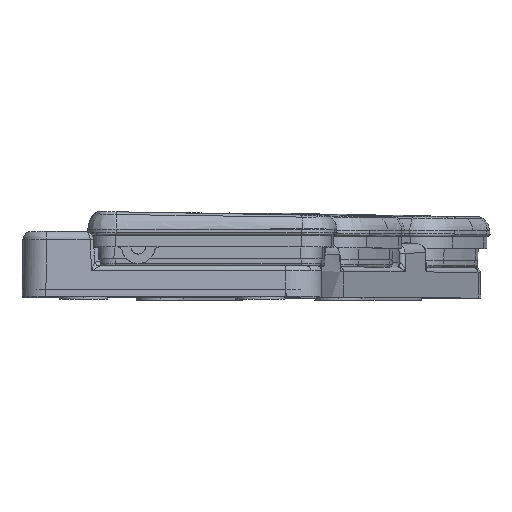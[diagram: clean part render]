
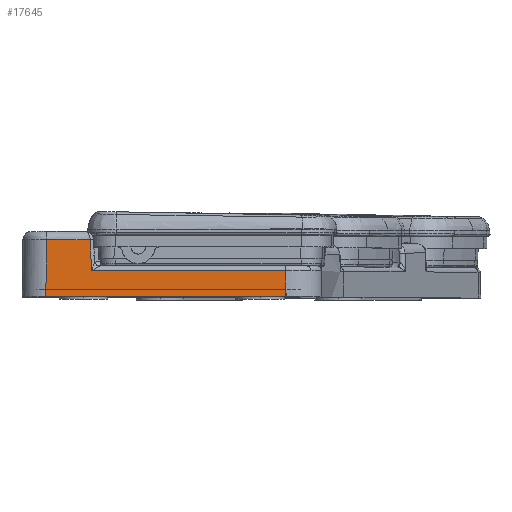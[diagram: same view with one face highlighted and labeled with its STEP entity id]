
A CAD part, top view. The second image highlights one B-rep face of the part: STEP entity #17645.
In plain terms, the highlighted planar face has unit normal (0, 0.018, 1).
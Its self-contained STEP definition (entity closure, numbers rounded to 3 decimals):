
#2441 = VERTEX_POINT ( 'NONE', #29691 ) ;
#3383 = EDGE_LOOP ( 'NONE', ( #48924, #40938, #6981, #41331, #4279, #52083 ) ) ;
#3707 = VERTEX_POINT ( 'NONE', #29127 ) ;
#4279 = ORIENTED_EDGE ( 'NONE', *, *, #30151, .T. ) ;
#4767 = CARTESIAN_POINT ( 'NONE',  ( -50.218, -9.965, 117.858 ) ) ;
#5860 = CARTESIAN_POINT ( 'NONE',  ( -79.429, -9.965, 117.858 ) ) ;
#6400 = CARTESIAN_POINT ( 'NONE',  ( -50.218, -9.965, 117.858 ) ) ;
#6561 = VERTEX_POINT ( 'NONE', #8832 ) ;
#6981 = ORIENTED_EDGE ( 'NONE', *, *, #13341, .F. ) ;
#8832 = CARTESIAN_POINT ( 'NONE',  ( 31.424, -9.965, 117.858 ) ) ;
#9708 = CARTESIAN_POINT ( 'NONE',  ( 31.614, -20.85, 118.048 ) ) ;
#10958 = B_SPLINE_CURVE_WITH_KNOTS ( 'NONE', 3,
 ( #41518, #18237, #22966, #55677 ),
 .UNSPECIFIED., .F., .F.,
 ( 4, 4 ),
 ( 0., 1. ),
 .UNSPECIFIED. ) ;
#12543 = CARTESIAN_POINT ( 'NONE',  ( -79.429, -18.5, 118.007 ) ) ;
#12930 = CARTESIAN_POINT ( 'NONE',  ( -50.82, 3.059, 117.631 ) ) ;
#13341 = EDGE_CURVE ( 'NONE', #2441, #3707, #46522, .T. ) ;
#14418 = DIRECTION ( 'NONE',  ( -0.017, 1., -0.017 ) ) ;
#15083 = DIRECTION ( 'NONE',  ( -1., 0., 0. ) ) ;
#16596 = VERTEX_POINT ( 'NONE', #22421 ) ;
#17288 = DIRECTION ( 'NONE',  ( 0., -1., 0.017 ) ) ;
#17591 = CARTESIAN_POINT ( 'NONE',  ( -0.404, -20.85, 118.048 ) ) ;
#17645 = ADVANCED_FACE ( 'NONE', ( #26095 ), #31168, .T. ) ;
#18133 = EDGE_CURVE ( 'NONE', #19131, #3707, #10958, .T. ) ;
#18237 = CARTESIAN_POINT ( 'NONE',  ( -51.273, 3.06, 117.63 ) ) ;
#19131 = VERTEX_POINT ( 'NONE', #12930 ) ;
#22421 = CARTESIAN_POINT ( 'NONE',  ( 31.614, -20.85, 118.048 ) ) ;
#22966 = CARTESIAN_POINT ( 'NONE',  ( -57.351, 3.061, 117.63 ) ) ;
#23088 = EDGE_CURVE ( 'NONE', #6561, #24471, #49211, .T. ) ;
#24471 = VERTEX_POINT ( 'NONE', #4767 ) ;
#25697 = AXIS2_PLACEMENT_3D ( 'NONE', #12543, #45246, #17288 ) ;
#26095 = FACE_OUTER_BOUND ( 'NONE', #3383, .T. ) ;
#26258 = VECTOR ( 'NONE', #45575, 1000. ) ;
#27348 = VECTOR ( 'NONE', #15083, 1000. ) ;
#29127 = CARTESIAN_POINT ( 'NONE',  ( -69.054, 3.061, 117.63 ) ) ;
#29191 = LINE ( 'NONE', #17591, #26258 ) ;
#29318 = DIRECTION ( 'NONE',  ( 0.017, 1., -0.017 ) ) ;
#29691 = CARTESIAN_POINT ( 'NONE',  ( -69.472, -20.85, 118.048 ) ) ;
#30151 = EDGE_CURVE ( 'NONE', #16596, #6561, #35061, .T. ) ;
#30308 = CARTESIAN_POINT ( 'NONE',  ( -50.82, 3.059, 117.631 ) ) ;
#31168 = PLANE ( 'NONE',  #25697 ) ;
#34081 = VECTOR ( 'NONE', #29318, 1000. ) ;
#35044 = EDGE_CURVE ( 'NONE', #16596, #2441, #29191, .T. ) ;
#35061 = LINE ( 'NONE', #9708, #60039 ) ;
#40938 = ORIENTED_EDGE ( 'NONE', *, *, #18133, .T. ) ;
#41331 = ORIENTED_EDGE ( 'NONE', *, *, #35044, .F. ) ;
#41518 = CARTESIAN_POINT ( 'NONE',  ( -50.82, 3.059, 117.631 ) ) ;
#43091 = EDGE_CURVE ( 'NONE', #24471, #19131, #58728, .T. ) ;
#43192 = CARTESIAN_POINT ( 'NONE',  ( -69.434, -18.674, 118.01 ) ) ;
#44189 = CARTESIAN_POINT ( 'NONE',  ( -50.419, -5.767, 117.785 ) ) ;
#45246 = DIRECTION ( 'NONE',  ( 0., 0.017, 1. ) ) ;
#45575 = DIRECTION ( 'NONE',  ( -1., 0., 0. ) ) ;
#46522 = LINE ( 'NONE', #43192, #34081 ) ;
#48924 = ORIENTED_EDGE ( 'NONE', *, *, #43091, .T. ) ;
#49211 = LINE ( 'NONE', #5860, #27348 ) ;
#52083 = ORIENTED_EDGE ( 'NONE', *, *, #23088, .T. ) ;
#55677 = CARTESIAN_POINT ( 'NONE',  ( -69.054, 3.061, 117.63 ) ) ;
#58361 = CARTESIAN_POINT ( 'NONE',  ( -50.619, -1.425, 117.709 ) ) ;
#58728 = B_SPLINE_CURVE_WITH_KNOTS ( 'NONE', 3,
 ( #6400, #44189, #58361, #30308 ),
 .UNSPECIFIED., .F., .F.,
 ( 4, 4 ),
 ( 0., 1. ),
 .UNSPECIFIED. ) ;
#60039 = VECTOR ( 'NONE', #14418, 1000. ) ;
